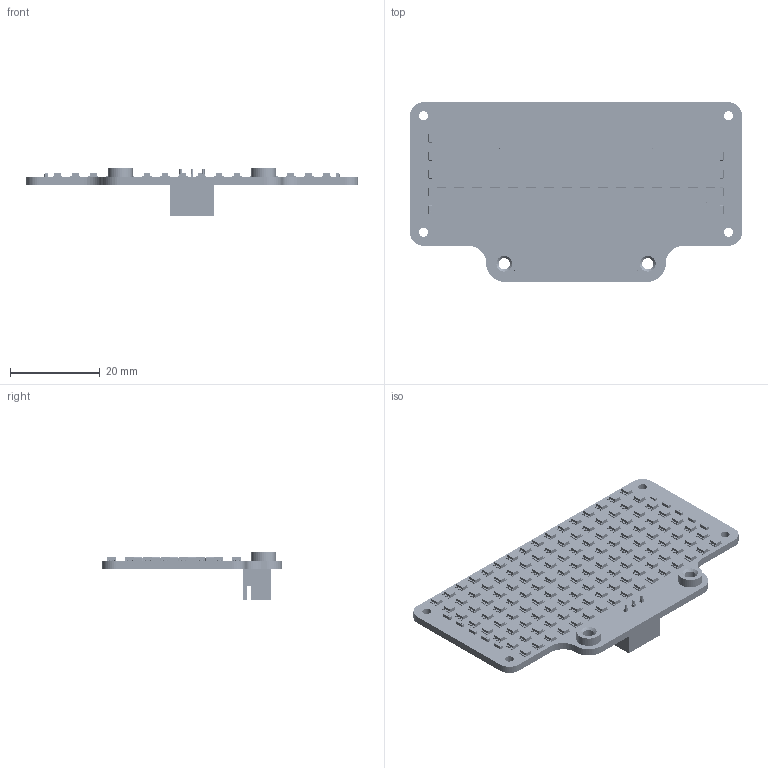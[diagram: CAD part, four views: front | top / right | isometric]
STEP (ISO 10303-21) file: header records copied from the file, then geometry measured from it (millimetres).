
FILE_DESCRIPTION(('Open CASCADE Model'),'2;1');
FILE_NAME('Open CASCADE Shape Model','2025-03-20T16:07:28',('Author'),( 'Open CASCADE'),'Open CASCADE STEP processor 6.5','Open CASCADE 6.5' ,'Unknown');
FILE_SCHEMA(('AUTOMOTIVE_DESIGN { 1 0 10303 214 1 1 1 1 }'));
Length unit declared in the file: millimetre
Products named in the file (148): PCB; Board; P2; M3-2ET; C1; User_Library-0603(1608M)_Cap; C2; D1; User_Library-WS2812-2020; D2; D3; D4; D5; D6; D7; D8; D9; D10; D11; D12; D13; D17; D18; D19; D20; D21; D22; D23; D24; D25; D26; D27; D28; D29; D30; D31; D32; D33; D34; D35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
Assembly tree (283 placements, depth 3):
  PCB
    Board
    P2
      M3-2ET
    C1
      User_Library-0603(1608M)_Cap
    C2
      User_Library-0603(1608M)_Cap
    D1
      User_Library-WS2812-2020
    D2
      User_Library-WS2812-2020
    D3
      User_Library-WS2812-2020
    D4
      User_Library-WS2812-2020
    D5
      User_Library-WS2812-2020
    D6
      User_Library-WS2812-2020
    D7
      User_Library-WS2812-2020
    D8
      User_Library-WS2812-2020
    D9
      User_Library-WS2812-2020
    D10
      User_Library-WS2812-2020
    D11
      User_Library-WS2812-2020
    D12
      User_Library-WS2812-2020
    D13
      User_Library-WS2812-2020
    D17
      User_Library-WS2812-2020
    D18
      User_Library-WS2812-2020
    D19
      User_Library-WS2812-2020
    D20
      User_Library-WS2812-2020
    D21
      User_Library-WS2812-2020
    D22
      User_Library-WS2812-2020
    D23
      User_Library-WS2812-2020
    D24
      User_Library-WS2812-2020
    D25
      User_Library-WS2812-2020
    D26
      User_Library-WS2812-2020
    D27
      User_Library-WS2812-2020
    D28
      User_Library-WS2812-2020
    D29
      User_Library-WS2812-2020
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Bounding box: 74.02 x 40.02 x 10.69 mm (x, y, z)
Volume: 5111.2 mm3; surface area: 9944.1 mm2
Topology: 1312 solids, 1312 shells, 17712 faces, 44851 edges, 29764 vertices
Faces by surface type: plane 12376, cylinder 3657, bspline 1672, extrusion 5, cone 2
Full cylindrical faces by diameter (mm): 0.8 x3, 2.5 x2, 4 x2, 4.2 x2, 5.5 x2
Entity records: 48854 total; most frequent: CARTESIAN_POINT 14117, DIRECTION 5305, VECTOR 3453, LINE 3448, ORIENTED_EDGE 3042, PCURVE 3042, DEFINITIONAL_REPRESENTATION 3042, EDGE_CURVE 1521
